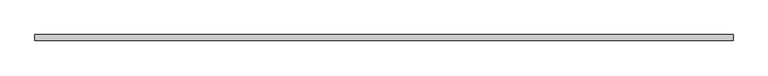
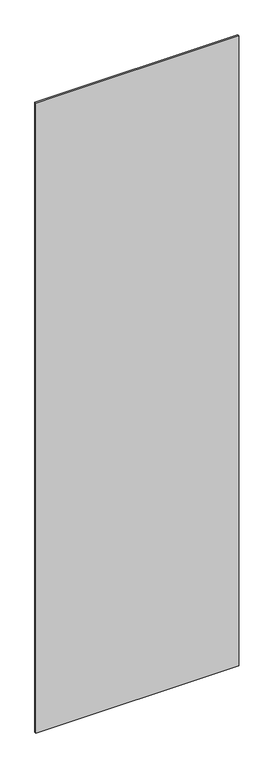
"""IFC4 building model written with IfcOpenShell, lengths in millimetres: plate geometry, システム パネル : 標準."""

import ifcopenshell
import ifcopenshell.guid

model = None  # the IFC model being written
_history = None  # IfcOwnerHistory: only IFC2X3 demands one
_inside = {}  # id of a spatial element -> (the spatial element, [elements in it])
_under = {}  # id of a project, library or spatial element -> (it, [spatial elements below it])
_declared = {}  # id of a project -> (the project, [libraries it declares])
_typed = {}  # id of a type object -> (the type object, [elements of that type])
_made_of = {}  # id of a material, layer set ... -> (it, [elements and type objects made of it])


def new_model(schema):
    """Start an empty IFC model of exactly this schema.

    Asked for "IFC4X3", IfcOpenShell would pick the latest addendum, in which some entities
    have other attributes; the version numbers below select the first issue.
    IFC2X3 requires an IfcOwnerHistory on every rooted entity: one is made here for all.
    """
    global model, _history
    if schema == "IFC4X3":
        model = ifcopenshell.file(schema_version=(4, 3, 0, 0))
    else:
        model = ifcopenshell.file(schema=schema)
    _inside.clear()
    _under.clear()
    _declared.clear()
    _typed.clear()
    _made_of.clear()
    _history = None
    if model.schema == "IFC2X3":
        org = make("IfcOrganization", Name="unknown")
        user = make(
            "IfcPersonAndOrganization",
            ThePerson=make("IfcPerson", FamilyName="unknown"),
            TheOrganization=org,
        )
        app = make(
            "IfcApplication",
            ApplicationDeveloper=org,
            Version="unknown",
            ApplicationFullName="unknown",
            ApplicationIdentifier="unknown",
        )
        _history = make(
            "IfcOwnerHistory",
            OwningUser=user,
            OwningApplication=app,
            ChangeAction="ADDED",
            CreationDate=0,
        )
    return model


def make(cls, **values):
    """One entity of the class cls with the attributes given. An attribute that is None is left unset."""
    return model.create_entity(
        cls, **{name: value for name, value in values.items() if value is not None}
    )


def rooted(cls, **values):
    """An entity with a GlobalId (a new one), such as an element, a storey or a relation."""
    return make(cls, GlobalId=ifcopenshell.guid.new(), OwnerHistory=_history, **values)


def si_unit(unit_type, name, prefix=None):
    """IfcSIUnit, for example si_unit("LENGTHUNIT", "METRE", prefix="MILLI")."""
    return make("IfcSIUnit", UnitType=unit_type, Prefix=prefix, Name=name)


def assignment(units):
    """IfcUnitAssignment: the units of a project."""
    return None if units is None else make("IfcUnitAssignment", Units=units)


def point(xyz):
    """IfcCartesianPoint."""
    return None if xyz is None else make("IfcCartesianPoint", Coordinates=xyz)


def direction(xyz):
    """IfcDirection."""
    return None if xyz is None else make("IfcDirection", DirectionRatios=xyz)


def frame(location, z_axis=None, x_axis=None):
    """IfcAxis2Placement3D, a coordinate frame: its origin and axes. An axis left out is left unset."""
    return make(
        "IfcAxis2Placement3D",
        Location=point(location),
        Axis=direction(z_axis),
        RefDirection=direction(x_axis),
    )


def origin():
    """The frame at (0, 0, 0) with its axes left unset."""
    return frame((0.0, 0.0, 0.0))


def origin_with_axes():
    """The frame at (0, 0, 0) with the z axis (0, 0, 1) and the x axis (1, 0, 0) written out."""
    return frame((0.0, 0.0, 0.0), z_axis=(0.0, 0.0, 1.0), x_axis=(1.0, 0.0, 0.0))


def place(relative_to, where):
    """IfcLocalPlacement: puts the frame where relative to a parent placement (None: the world)."""
    return make(
        "IfcLocalPlacement", PlacementRelTo=relative_to, RelativePlacement=where
    )


def context(
    kind, dimensions, precision=None, world=None, true_north=None, identifier=None
):
    """IfcGeometricRepresentationContext, for example the 3D "Model" context."""
    return make(
        "IfcGeometricRepresentationContext",
        ContextIdentifier=identifier,
        ContextType=kind,
        CoordinateSpaceDimension=dimensions,
        Precision=precision,
        WorldCoordinateSystem=world,
        TrueNorth=true_north,
    )


def project(units=None, contexts=None):
    """IfcProject with its units and contexts."""
    return rooted(
        "IfcProject",
        Name="project",
        RepresentationContexts=contexts,
        UnitsInContext=assignment(units),
    )


def spatial(cls, under=None, at=None, **own):
    """A site, building, storey or space (cls), placed at a placement, below another one or the project."""
    s = rooted(cls, ObjectPlacement=at, **own)
    if under is not None:
        _under.setdefault(under.id(), (under, []))[1].append(s)
    return s


def polyline(points):
    """IfcPolyline through the points."""
    return make("IfcPolyline", Points=[point(p) for p in points])


def outline(outer, holes=None, kind="AREA"):
    """IfcArbitraryClosedProfileDef: a profile drawn as a closed curve; with holes, ...WithVoids."""
    if holes is None:
        return make("IfcArbitraryClosedProfileDef", ProfileType=kind, OuterCurve=outer)
    return make(
        "IfcArbitraryProfileDefWithVoids",
        ProfileType=kind,
        OuterCurve=outer,
        InnerCurves=holes,
    )


def extrude(swept, where, along, depth):
    """IfcExtrudedAreaSolid: the profile swept, set in the frame where, extruded along a direction by depth."""
    return make(
        "IfcExtrudedAreaSolid",
        SweptArea=swept,
        Position=where,
        ExtrudedDirection=direction(along),
        Depth=depth,
    )


def shape(context_of_items, identifier, shape_type, items):
    """IfcShapeRepresentation: the items that make up one representation, for example the "Body"."""
    return make(
        "IfcShapeRepresentation",
        ContextOfItems=context_of_items,
        RepresentationIdentifier=identifier,
        RepresentationType=shape_type,
        Items=items,
    )


def source(mapping_origin, context_of_items, identifier, shape_type, items):
    """IfcRepresentationMap: a shape defined once, which mapped items show again and again."""
    return make(
        "IfcRepresentationMap",
        MappingOrigin=mapping_origin,
        MappedRepresentation=shape(context_of_items, identifier, shape_type, items),
    )


def transform(
    local_origin,
    x_axis=None,
    y_axis=None,
    z_axis=None,
    scale=None,
    scale2=None,
    scale3=None,
    uniform=True,
):
    """IfcCartesianTransformationOperator3D, or its non-uniform kind. x_axis, y_axis, z_axis: its Axis1, 2, 3."""
    if uniform:
        return make(
            "IfcCartesianTransformationOperator3D",
            Axis1=direction(x_axis),
            Axis2=direction(y_axis),
            LocalOrigin=point(local_origin),
            Scale=scale,
            Axis3=direction(z_axis),
        )
    return make(
        "IfcCartesianTransformationOperator3DnonUniform",
        Axis1=direction(x_axis),
        Axis2=direction(y_axis),
        LocalOrigin=point(local_origin),
        Scale=scale,
        Axis3=direction(z_axis),
        Scale2=scale2,
        Scale3=scale3,
    )


def mapped(mapping_source, mapping_target):
    """IfcMappedItem: shows the shape of a source again, moved by a transform."""
    return make(
        "IfcMappedItem", MappingSource=mapping_source, MappingTarget=mapping_target
    )


def made_of(thing, what):
    """Note that an element or type object is made of a material, layer set ...; save() writes the relation."""
    if what is not None:
        _made_of.setdefault(what.id(), (what, []))[1].append(thing)
    return thing


def element(
    cls,
    number,
    at=None,
    inside=None,
    cuts=None,
    type_object=None,
    material=None,
    context=None,
    identifier="Body",
    shape_type=None,
    held_by="IfcProductDefinitionShape",
    body=None,
    shapes=None,
    **own,
):
    """One element of the class cls, such as IfcWall. Its Tag is "e" and its number.

    at: its placement. inside: the storey or other place that contains it. cuts: it is an
    opening in that element (IfcRelVoidsElement). A single representation is given by context,
    identifier, shape_type and body (its items); several are given by shapes. held_by: the class
    of the entity that holds the representations. save() writes the other relations.
    """
    e = rooted(cls, Tag="e%d" % number, ObjectPlacement=at, **own)
    if body is not None:
        shapes = [shape(context, identifier, shape_type, body)]
    if shapes is not None:
        e.Representation = make(held_by, Representations=shapes)
    if inside is not None:
        _inside.setdefault(inside.id(), (inside, []))[1].append(e)
    if cuts is not None:
        rooted(
            "IfcRelVoidsElement", RelatingBuildingElement=cuts, RelatedOpeningElement=e
        )
    if type_object is not None:
        _typed.setdefault(type_object.id(), (type_object, []))[1].append(e)
    return made_of(e, material)


def aggregate(whole, parts):
    """IfcRelAggregates: a whole, such as a stair, and the parts it consists of."""
    return rooted("IfcRelAggregates", RelatingObject=whole, RelatedObjects=parts)


def save(model, path):
    """Write the relations noted so far, then the file.

    IfcRelAggregates (storeys below a building ...), IfcRelContainedInSpatialStructure (elements
    in a storey), IfcRelDefinesByType, IfcRelAssociatesMaterial and IfcRelDeclares: one each for
    every whole, place, type object, material and project.
    """
    for whole, parts in _under.values():
        aggregate(whole, parts)
    for where, things in _inside.values():
        rooted(
            "IfcRelContainedInSpatialStructure",
            RelatedElements=things,
            RelatingStructure=where,
        )
    for kind, things in _typed.values():
        rooted("IfcRelDefinesByType", RelatedObjects=things, RelatingType=kind)
    for what, things in _made_of.values():
        rooted("IfcRelAssociatesMaterial", RelatedObjects=things, RelatingMaterial=what)
    for by, libraries in _declared.values():
        rooted("IfcRelDeclares", RelatingContext=by, RelatedDefinitions=libraries)
    model.write(path)


def plate_e6aca16e(model_context):
    return source(origin(), model_context, "Body", "SweptSolid", [
        extrude(outline(polyline([(588.3204416, -5.0), (-588.3204416, -5.0), (-588.3204416, 5.0), (588.3204416, 5.0), (588.3204416, -5.0)])), origin_with_axes(), (0.0, 0.0, 1.0), 3860.0),
    ])


if __name__ == "__main__":
    model = new_model("IFC4")
    model_context = context("Model", 3, world=origin())
    ifc_project = project(units=[si_unit("LENGTHUNIT", "METRE", prefix="MILLI")], contexts=[model_context])
    site = spatial("IfcSite", under=ifc_project)
    building = spatial("IfcBuilding", under=site)
    placement = place(None, origin())
    plate_shape = plate_e6aca16e(model_context)
    element("IfcPlate", 1, ObjectType="システム パネル : 標準", at=placement, inside=building, context=model_context, shape_type="MappedRepresentation", body=[
        mapped(plate_shape, transform((0.0, 0.0, 0.0), x_axis=(1.0, 0.0, 0.0), y_axis=(0.0, 1.0, 0.0), z_axis=(0.0, 0.0, 1.0))),
    ])
    save(model, "model.ifc")
